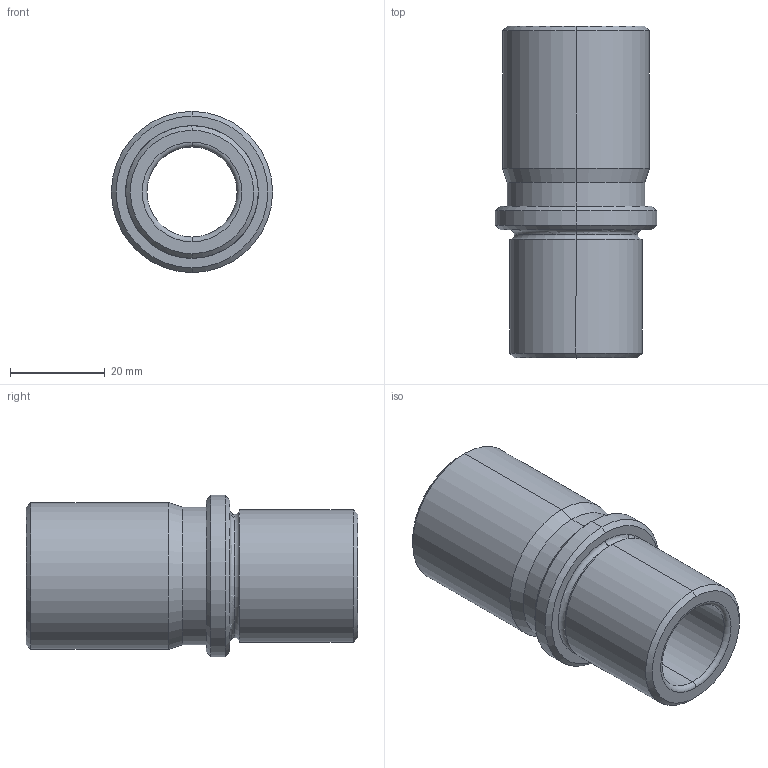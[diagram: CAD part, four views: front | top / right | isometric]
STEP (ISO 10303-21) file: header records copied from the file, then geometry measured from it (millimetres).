
FILE_DESCRIPTION(('CATIA V5 STEP Exchange'),'2;1');
FILE_NAME('C:\Users\Utente\Desktop\IO LAVORO\3D X SITO CF\X SITO\CF 450\CF 450 19x70.stp','2020-12-27T17:58:02+00:00',('none'),('none'),'CATIA Version 5 Release 20 GA (IN-10)','CATIA V5 STEP AP203','none');
FILE_SCHEMA(('CONFIG_CONTROL_DESIGN'));
Length unit declared in the file: millimetre
Products named in the file (1): CF 450 19x70
Bounding box: 34 x 70 x 34 mm (x, y, z)
Volume: 29029.4 mm3; surface area: 11904.3 mm2
Topology: 1 solids, 1 shells, 32 faces, 98 edges, 70 vertices
Faces by surface type: cylinder 10, cone 10, torus 8, plane 4
Entity records: 1236 total; most frequent: CARTESIAN_POINT 313, ORIENTED_EDGE 196, DIRECTION 154, AXIS2_PLACEMENT_3D 103, EDGE_CURVE 98, CIRCLE 70, VERTEX_POINT 70, EDGE_LOOP 36
